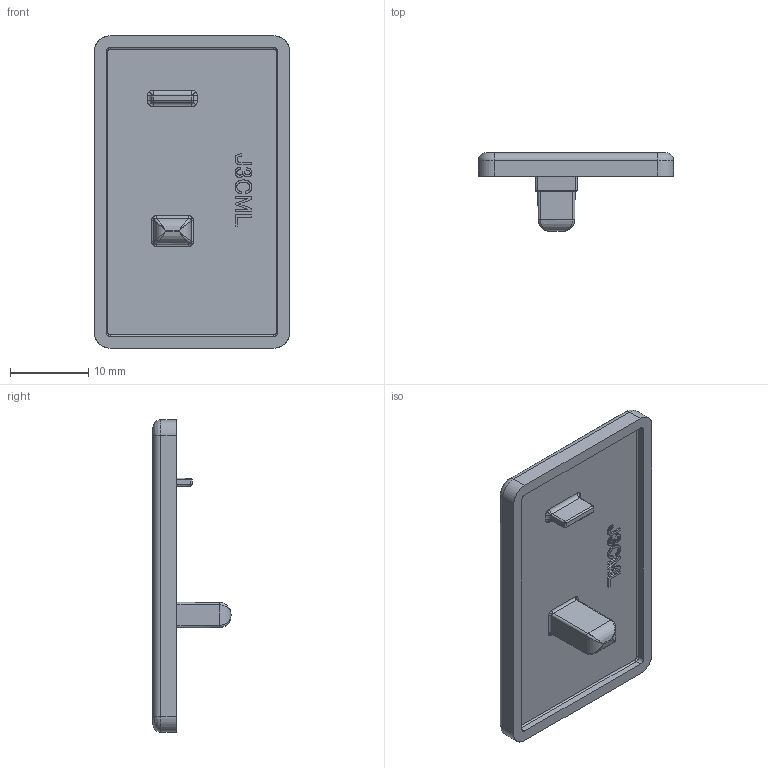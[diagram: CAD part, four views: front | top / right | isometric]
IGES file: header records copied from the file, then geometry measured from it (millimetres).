
Start section: SolidWorks IGES file using analytic representation for surfaces
Global section: file name: C:\Users\admin\Desktop\IGES\J3CML.igs; native system: SolidWorks 2014; preprocessor: SolidWorks 2014; author: admin_pc; date: 170524.165423; units: millimetre
Bounding box: 25 x 10 x 40 mm (x, y, z)
Surface area: 2578.2 mm2 (no closed solid volume)
Topology: 0 solids, 0 shells, 178 faces, 1548 edges, 1544 vertices
Faces by surface type: bspline 134, revolution 44
